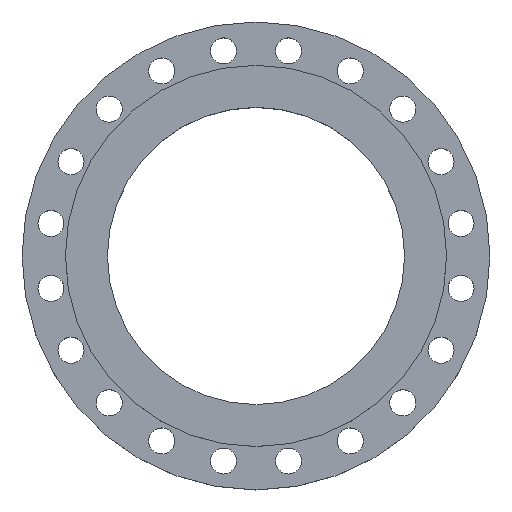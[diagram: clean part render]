
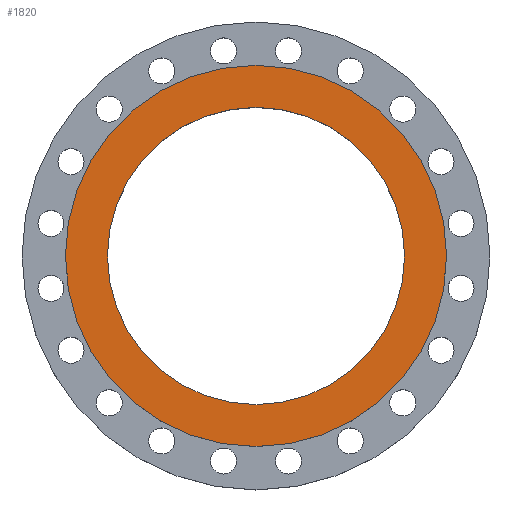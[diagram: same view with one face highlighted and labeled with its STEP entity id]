
A CAD part, top view. The second image highlights one B-rep face of the part: STEP entity #1820.
In plain terms, the highlighted planar face has unit normal (0, 0, 1).
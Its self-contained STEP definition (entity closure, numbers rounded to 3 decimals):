
#18 = EDGE_CURVE ( 'NONE', #1529, #1652, #354, .T. ) ;
#203 = PLANE ( 'NONE',  #981 ) ;
#228 = DIRECTION ( 'NONE',  ( 1., 0., 0. ) ) ;
#288 = DIRECTION ( 'NONE',  ( 1., 0., 0. ) ) ;
#307 = EDGE_LOOP ( 'NONE', ( #436, #433 ) ) ;
#354 = CIRCLE ( 'NONE', #1881, 239.8 ) ;
#367 = VERTEX_POINT ( 'NONE', #1023 ) ;
#391 = CARTESIAN_POINT ( 'NONE',  ( 0., 0., 14.2 ) ) ;
#399 = CARTESIAN_POINT ( 'NONE',  ( 0., 0., 14.2 ) ) ;
#429 = VERTEX_POINT ( 'NONE', #1173 ) ;
#431 = ORIENTED_EDGE ( 'NONE', *, *, #1352, .F. ) ;
#432 = ORIENTED_EDGE ( 'NONE', *, *, #18, .F. ) ;
#433 = ORIENTED_EDGE ( 'NONE', *, *, #1590, .T. ) ;
#436 = ORIENTED_EDGE ( 'NONE', *, *, #1795, .T. ) ;
#459 = DIRECTION ( 'NONE',  ( 0., 0., 1. ) ) ;
#578 = DIRECTION ( 'NONE',  ( 1., 0., 0. ) ) ;
#628 = FACE_OUTER_BOUND ( 'NONE', #307, .T. ) ;
#706 = CARTESIAN_POINT ( 'NONE',  ( 239.8, 0., 14.2 ) ) ;
#828 = CIRCLE ( 'NONE', #1610, 239.8 ) ;
#953 = DIRECTION ( 'NONE',  ( 0., 0., 1. ) ) ;
#957 = DIRECTION ( 'NONE',  ( 1., 0., 0. ) ) ;
#981 = AXIS2_PLACEMENT_3D ( 'NONE', #1240, #1313, #228 ) ;
#1023 = CARTESIAN_POINT ( 'NONE',  ( -307.5, 0., 14.2 ) ) ;
#1031 = CARTESIAN_POINT ( 'NONE',  ( 0., 0., 14.2 ) ) ;
#1173 = CARTESIAN_POINT ( 'NONE',  ( 307.5, 0., 14.2 ) ) ;
#1240 = CARTESIAN_POINT ( 'NONE',  ( 307.5, 0., 14.2 ) ) ;
#1293 = CARTESIAN_POINT ( 'NONE',  ( 0., 0., 14.2 ) ) ;
#1313 = DIRECTION ( 'NONE',  ( 0., 0., 1. ) ) ;
#1352 = EDGE_CURVE ( 'NONE', #1652, #1529, #828, .T. ) ;
#1435 = AXIS2_PLACEMENT_3D ( 'NONE', #399, #953, #1940 ) ;
#1461 = FACE_BOUND ( 'NONE', #1800, .T. ) ;
#1529 = VERTEX_POINT ( 'NONE', #706 ) ;
#1590 = EDGE_CURVE ( 'NONE', #367, #429, #1970, .T. ) ;
#1606 = AXIS2_PLACEMENT_3D ( 'NONE', #1293, #2034, #578 ) ;
#1610 = AXIS2_PLACEMENT_3D ( 'NONE', #391, #2031, #957 ) ;
#1652 = VERTEX_POINT ( 'NONE', #2000 ) ;
#1795 = EDGE_CURVE ( 'NONE', #429, #367, #1995, .T. ) ;
#1800 = EDGE_LOOP ( 'NONE', ( #432, #431 ) ) ;
#1820 = ADVANCED_FACE ( 'NONE', ( #628, #1461 ), #203, .T. ) ;
#1881 = AXIS2_PLACEMENT_3D ( 'NONE', #1031, #459, #288 ) ;
#1940 = DIRECTION ( 'NONE',  ( 1., 0., 0. ) ) ;
#1970 = CIRCLE ( 'NONE', #1606, 307.5 ) ;
#1995 = CIRCLE ( 'NONE', #1435, 307.5 ) ;
#2000 = CARTESIAN_POINT ( 'NONE',  ( -239.8, 0., 14.2 ) ) ;
#2031 = DIRECTION ( 'NONE',  ( 0., 0., 1. ) ) ;
#2034 = DIRECTION ( 'NONE',  ( 0., 0., 1. ) ) ;
